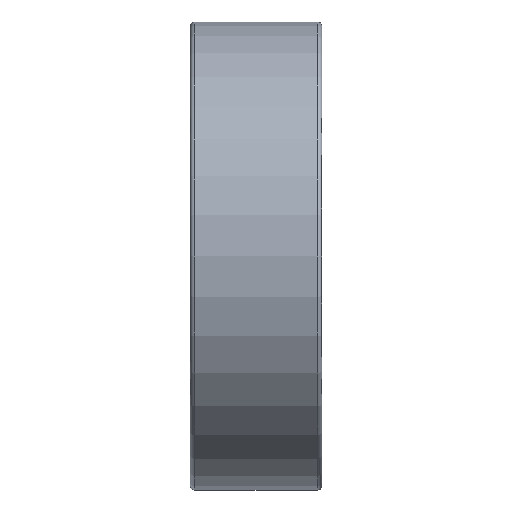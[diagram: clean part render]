
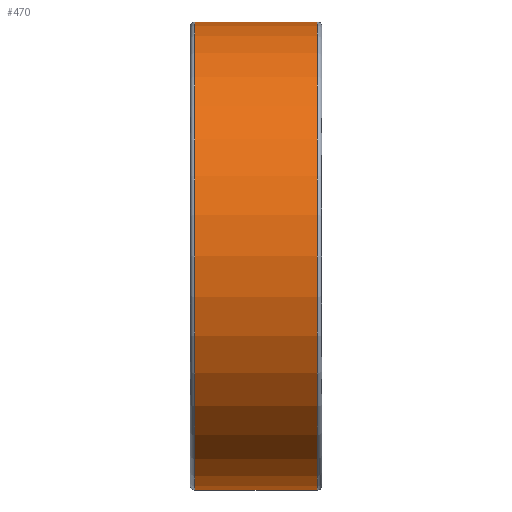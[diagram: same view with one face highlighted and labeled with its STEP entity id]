
A CAD part, front view. The second image highlights one B-rep face of the part: STEP entity #470.
In plain terms, the highlighted cylindrical face has radius 16 mm (diameter 32 mm), a full revolution.
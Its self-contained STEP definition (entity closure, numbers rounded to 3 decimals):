
#152=CYLINDRICAL_SURFACE('',#722,16.);
#232=EDGE_LOOP('',(#324));
#233=EDGE_LOOP('',(#325));
#324=ORIENTED_EDGE('',*,*,#378,.F.);
#325=ORIENTED_EDGE('',*,*,#376,.T.);
#376=EDGE_CURVE('',#659,#659,#396,.T.);
#378=EDGE_CURVE('',#661,#661,#398,.T.);
#396=CIRCLE('',#718,16.);
#398=CIRCLE('',#721,16.);
#470=ADVANCED_FACE('',(#581,#582),#152,.T.);
#581=FACE_BOUND('',#232,.T.);
#582=FACE_BOUND('',#233,.T.);
#659=VERTEX_POINT('',#2474);
#661=VERTEX_POINT('',#2479);
#718=AXIS2_PLACEMENT_3D('',#2473,#831,#832);
#721=AXIS2_PLACEMENT_3D('',#2478,#837,#838);
#722=AXIS2_PLACEMENT_3D('',#2480,#839,#840);
#831=DIRECTION('',(1.,0.,0.));
#832=DIRECTION('',(0.,0.,-1.));
#837=DIRECTION('',(1.,0.,0.));
#838=DIRECTION('',(0.,0.,-1.));
#839=DIRECTION('',(1.,0.,0.));
#840=DIRECTION('',(0.,0.,-1.));
#2473=CARTESIAN_POINT('',(-4.2,0.,0.));
#2474=CARTESIAN_POINT('',(-4.2,0.,-16.));
#2478=CARTESIAN_POINT('',(4.2,0.,0.));
#2479=CARTESIAN_POINT('',(4.2,0.,-16.));
#2480=CARTESIAN_POINT('',(-4.2,0.,0.));
